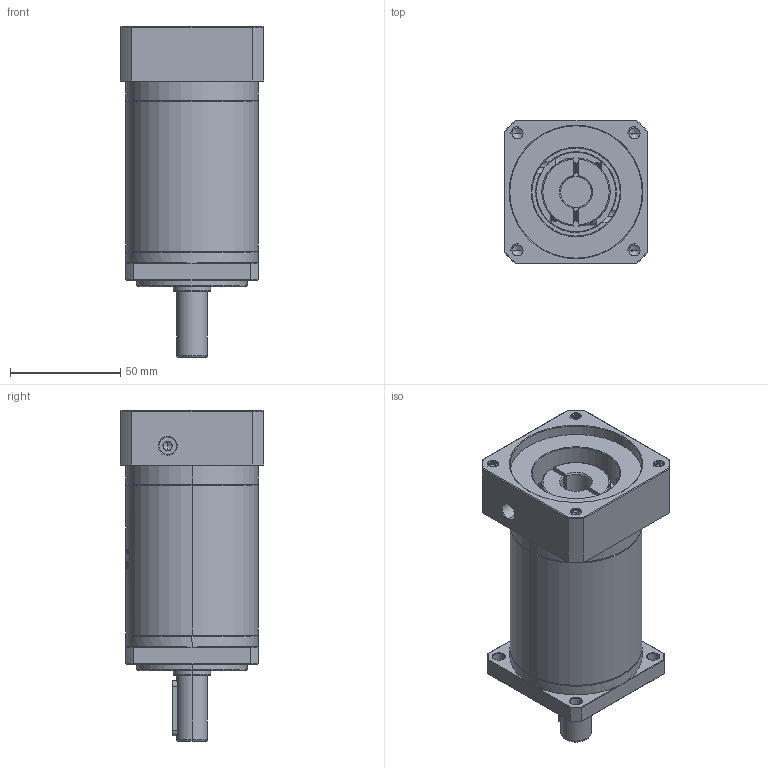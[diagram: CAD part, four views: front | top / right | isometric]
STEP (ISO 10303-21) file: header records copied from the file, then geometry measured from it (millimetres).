
FILE_DESCRIPTION (( 'STEP AP214' ), '1' );
FILE_NAME ('ZF60-D14-L3-14-60-75-M6.STEP', '2022-04-17T11:48:23', ( '' ), ( 'Microsoft' ), 'SwSTEP 2.0', 'SolidWorks 2016', '' );
FILE_SCHEMA (( 'AUTOMOTIVE_DESIGN' ));
Length unit declared in the file: millimetre
Products named in the file (1): ZF60-D14-L3-14-60-75-M6
Bounding box: 65 x 65 x 150 mm (x, y, z)
Volume: 332090.7 mm3; surface area: 53603.4 mm2
Topology: 6 solids, 6 shells, 1665 faces, 4488 edges, 2900 vertices
Faces by surface type: plane 749, cylinder 363, bspline 299, cone 234, torus 20
Entity records: 94551 total; most frequent: CARTESIAN_POINT 38266, ORIENTED_EDGE 8948, DIRECTION 6583, EDGE_CURVE 4474, VERTEX_POINT 2900, VECTOR 2275, LINE 2275, AXIS2_PLACEMENT_3D 2154
